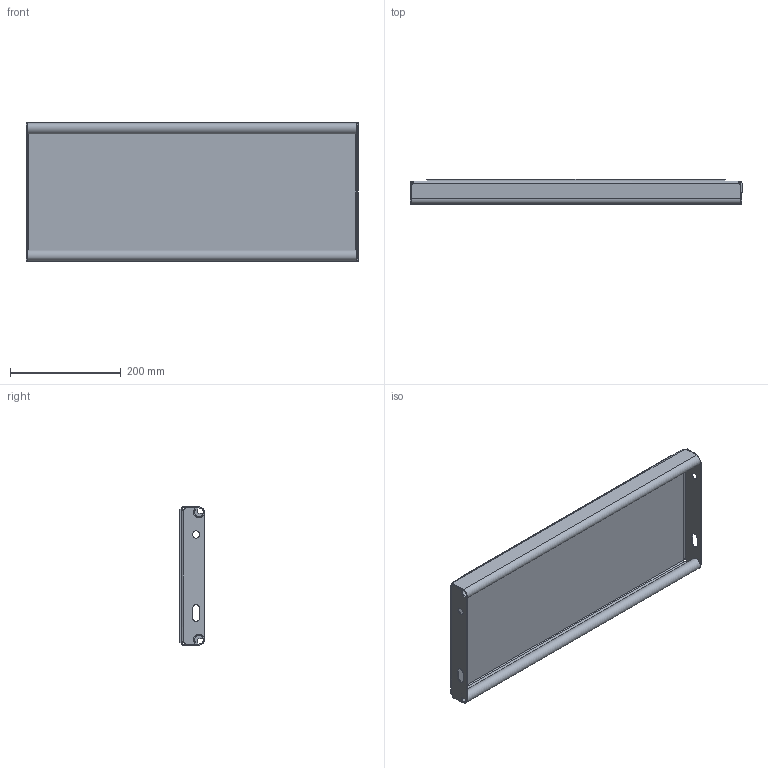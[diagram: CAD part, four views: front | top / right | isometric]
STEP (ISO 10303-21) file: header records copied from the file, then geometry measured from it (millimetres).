
FILE_DESCRIPTION (( 'STEP AP214' ), '1' );
FILE_NAME ('OPTIMO-Tread-Achil-O2-600x250x45x2-st240-F100320100_plain.STEP', '2021-03-16T13:57:36', ( '' ), ( '' ), 'SwSTEP 2.0', 'SolidWorks 2021', '' );
FILE_SCHEMA (( 'AUTOMOTIVE_DESIGN' ));
Length unit declared in the file: millimetre
Products named in the file (1): OPTIMO-Tread-Achil-O2-600x250x45x2-st240-F100320100_plain
Bounding box: 600 x 45 x 250 mm (x, y, z)
Volume: 911639.2 mm3; surface area: 529342 mm2
Topology: 1 solids, 1 shells, 248 faces, 640 edges, 412 vertices
Faces by surface type: plane 173, bspline 39, cylinder 36
Entity records: 9924 total; most frequent: CARTESIAN_POINT 4092, ORIENTED_EDGE 1280, DIRECTION 1022, EDGE_CURVE 640, VECTOR 490, LINE 490, VERTEX_POINT 412, EDGE_LOOP 274
